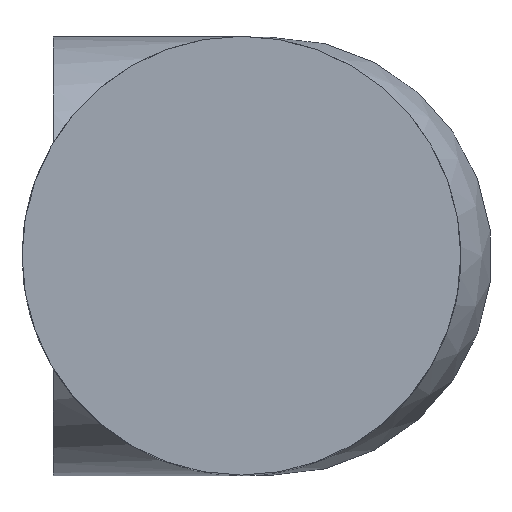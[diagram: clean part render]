
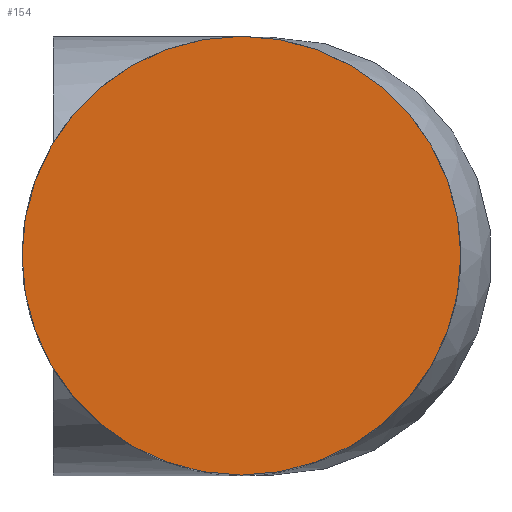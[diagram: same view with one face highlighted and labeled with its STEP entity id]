
A CAD part, top view. The second image highlights one B-rep face of the part: STEP entity #154.
In plain terms, the highlighted planar face has unit normal (0, 0, 1).
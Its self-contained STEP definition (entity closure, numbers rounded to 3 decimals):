
#34=PLANE('',#191);
#43=FACE_OUTER_BOUND('',#52,.T.);
#52=EDGE_LOOP('',(#143));
#57=CIRCLE('',#176,2.1);
#73=VERTEX_POINT('',#263);
#88=EDGE_CURVE('',#73,#73,#57,.T.);
#143=ORIENTED_EDGE('',*,*,#88,.T.);
#154=ADVANCED_FACE('',(#43),#34,.T.);
#176=AXIS2_PLACEMENT_3D('',#264,#211,#212);
#191=AXIS2_PLACEMENT_3D('',#319,#244,#245);
#211=DIRECTION('center_axis',(0.,0.,1.));
#212=DIRECTION('ref_axis',(1.,0.,0.));
#244=DIRECTION('center_axis',(0.,0.,1.));
#245=DIRECTION('ref_axis',(1.,0.,0.));
#263=CARTESIAN_POINT('',(-2.1,2.,-3.55));
#264=CARTESIAN_POINT('Origin',(0.,2.,-3.55));
#319=CARTESIAN_POINT('Origin',(0.,2.,-3.55));
